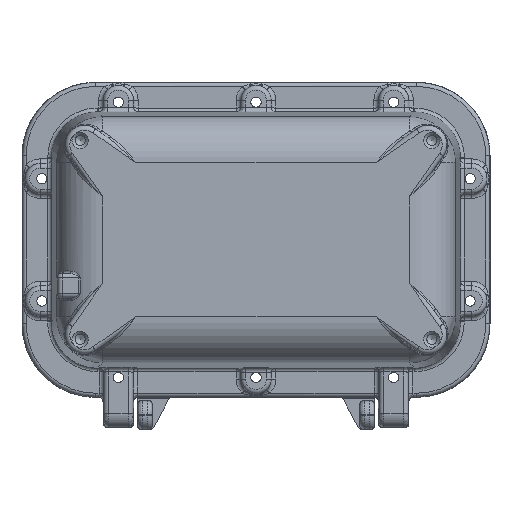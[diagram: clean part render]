
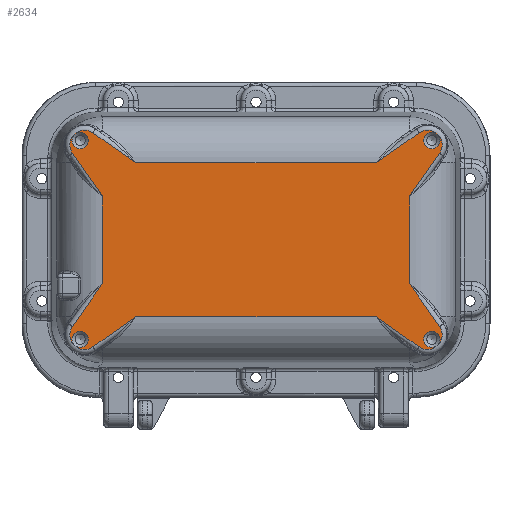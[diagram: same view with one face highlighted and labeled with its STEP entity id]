
A CAD part, front view. The second image highlights one B-rep face of the part: STEP entity #2634.
In plain terms, the highlighted planar face has unit normal (0, -1, 0).
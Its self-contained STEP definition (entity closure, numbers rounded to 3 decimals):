
#2634=ADVANCED_FACE('',(#24785,#24787,#24789,#24791,#24793),#24795,.T.);
#24785=FACE_BOUND('',#24786,.T.);
#24786=EDGE_LOOP('',(#51110,#51111,#51112,#51113,#51114,#51115,#51116,#51117,#51118,
#51119,#51120,#51121,#51122,#51123,#51124,#51125));
#24787=FACE_BOUND('',#24788,.T.);
#24788=EDGE_LOOP('',(#51126));
#24789=FACE_BOUND('',#24790,.T.);
#24790=EDGE_LOOP('',(#51127));
#24791=FACE_BOUND('',#24792,.T.);
#24792=EDGE_LOOP('',(#51128));
#24793=FACE_BOUND('',#24794,.T.);
#24794=EDGE_LOOP('',(#51129));
#24795=PLANE('',#24796);
#24796=AXIS2_PLACEMENT_3D('',#24797,#24798,#24799);
#24797=CARTESIAN_POINT('',(0.,-168.,0.));
#24798=DIRECTION('',(0.,-1.,0.));
#24799=DIRECTION('',(1.,0.,0.));
#51110=ORIENTED_EDGE('',*,*,#58867,.T.);
#51111=ORIENTED_EDGE('',*,*,#58868,.T.);
#51112=ORIENTED_EDGE('',*,*,#58869,.T.);
#51113=ORIENTED_EDGE('',*,*,#58870,.T.);
#51114=ORIENTED_EDGE('',*,*,#58871,.T.);
#51115=ORIENTED_EDGE('',*,*,#58872,.T.);
#51116=ORIENTED_EDGE('',*,*,#58873,.T.);
#51117=ORIENTED_EDGE('',*,*,#58874,.T.);
#51118=ORIENTED_EDGE('',*,*,#58875,.T.);
#51119=ORIENTED_EDGE('',*,*,#58876,.T.);
#51120=ORIENTED_EDGE('',*,*,#58877,.T.);
#51121=ORIENTED_EDGE('',*,*,#58878,.T.);
#51122=ORIENTED_EDGE('',*,*,#58879,.T.);
#51123=ORIENTED_EDGE('',*,*,#58880,.T.);
#51124=ORIENTED_EDGE('',*,*,#58881,.T.);
#51125=ORIENTED_EDGE('',*,*,#58505,.T.);
#51126=ORIENTED_EDGE('',*,*,#58882,.T.);
#51127=ORIENTED_EDGE('',*,*,#58883,.T.);
#51128=ORIENTED_EDGE('',*,*,#58884,.T.);
#51129=ORIENTED_EDGE('',*,*,#58885,.T.);
#58505=EDGE_CURVE('',#62262,#62259,#62263,.T.);
#58867=EDGE_CURVE('',#62259,#62866,#62867,.T.);
#58868=EDGE_CURVE('',#62866,#62868,#62869,.T.);
#58869=EDGE_CURVE('',#62868,#62870,#62871,.T.);
#58870=EDGE_CURVE('',#62870,#62872,#62873,.T.);
#58871=EDGE_CURVE('',#62872,#62874,#62875,.T.);
#58872=EDGE_CURVE('',#62874,#62876,#62877,.T.);
#58873=EDGE_CURVE('',#62876,#62878,#62879,.T.);
#58874=EDGE_CURVE('',#62878,#62880,#62881,.T.);
#58875=EDGE_CURVE('',#62880,#62882,#62883,.T.);
#58876=EDGE_CURVE('',#62882,#62884,#62885,.T.);
#58877=EDGE_CURVE('',#62884,#62886,#62887,.T.);
#58878=EDGE_CURVE('',#62886,#62888,#62889,.T.);
#58879=EDGE_CURVE('',#62888,#62890,#62891,.T.);
#58880=EDGE_CURVE('',#62890,#62892,#62893,.T.);
#58881=EDGE_CURVE('',#62892,#62262,#62894,.T.);
#58882=EDGE_CURVE('',#62895,#62895,#62896,.F.);
#58883=EDGE_CURVE('',#62897,#62897,#62898,.F.);
#58884=EDGE_CURVE('',#62899,#62899,#62900,.F.);
#58885=EDGE_CURVE('',#62901,#62901,#62902,.F.);
#62259=VERTEX_POINT('',#75119);
#62262=VERTEX_POINT('',#75153);
#62263=LINE('',#75154,#75155);
#62866=VERTEX_POINT('',#83551);
#62867=LINE('',#83552,#83553);
#62868=VERTEX_POINT('',#83555);
#62869=CIRCLE('',#83556,9.578);
#62870=VERTEX_POINT('',#83560);
#62871=LINE('',#83561,#83562);
#62872=VERTEX_POINT('',#83564);
#62873=LINE('',#83565,#83566);
#62874=VERTEX_POINT('',#83568);
#62875=LINE('',#83569,#83570);
#62876=VERTEX_POINT('',#83572);
#62877=CIRCLE('',#83573,9.578);
#62878=VERTEX_POINT('',#83577);
#62879=LINE('',#83578,#83579);
#62880=VERTEX_POINT('',#83581);
#62881=LINE('',#83582,#83583);
#62882=VERTEX_POINT('',#83585);
#62883=LINE('',#83586,#83587);
#62884=VERTEX_POINT('',#83589);
#62885=CIRCLE('',#83590,9.578);
#62886=VERTEX_POINT('',#83594);
#62887=LINE('',#83595,#83596);
#62888=VERTEX_POINT('',#83598);
#62889=LINE('',#83599,#83600);
#62890=VERTEX_POINT('',#83602);
#62891=LINE('',#83603,#83604);
#62892=VERTEX_POINT('',#83606);
#62893=CIRCLE('',#83607,9.578);
#62894=LINE('',#83611,#83612);
#62895=VERTEX_POINT('',#83614);
#62896=CIRCLE('',#83615,5.323);
#62897=VERTEX_POINT('',#83619);
#62898=CIRCLE('',#83620,5.323);
#62899=VERTEX_POINT('',#83624);
#62900=CIRCLE('',#83625,5.323);
#62901=VERTEX_POINT('',#83629);
#62902=CIRCLE('',#83630,5.323);
#75119=CARTESIAN_POINT('',(78.714,-168.,-50.436));
#75153=CARTESIAN_POINT('',(-78.714,-168.,-50.436));
#75154=CARTESIAN_POINT('',(-78.714,-168.,-50.436));
#75155=VECTOR('',#75156,1.);
#75156=DIRECTION('',(1.,0.,0.));
#83551=CARTESIAN_POINT('',(106.678,-168.,-70.017));
#83552=CARTESIAN_POINT('',(78.714,-168.,-50.436));
#83553=VECTOR('',#83554,1.);
#83554=DIRECTION('',(0.819,0.,-0.574));
#83555=CARTESIAN_POINT('',(120.017,-168.,-56.678));
#83556=AXIS2_PLACEMENT_3D('',#83557,#83558,#83559);
#83557=CARTESIAN_POINT('',(112.172,-168.,-62.172));
#83558=DIRECTION('',(0.,-1.,0.));
#83559=DIRECTION('',(-0.574,0.,-0.819));
#83560=CARTESIAN_POINT('',(100.436,-168.,-28.714));
#83561=CARTESIAN_POINT('',(120.017,-168.,-56.678));
#83562=VECTOR('',#83563,1.);
#83563=DIRECTION('',(-0.574,0.,0.819));
#83564=CARTESIAN_POINT('',(100.436,-168.,28.714));
#83565=CARTESIAN_POINT('',(100.436,-168.,-28.714));
#83566=VECTOR('',#83567,1.);
#83567=DIRECTION('',(0.,0.,1.));
#83568=CARTESIAN_POINT('',(120.017,-168.,56.678));
#83569=CARTESIAN_POINT('',(100.436,-168.,28.714));
#83570=VECTOR('',#83571,1.);
#83571=DIRECTION('',(0.574,0.,0.819));
#83572=CARTESIAN_POINT('',(106.678,-168.,70.017));
#83573=AXIS2_PLACEMENT_3D('',#83574,#83575,#83576);
#83574=CARTESIAN_POINT('',(112.172,-168.,62.172));
#83575=DIRECTION('',(0.,-1.,0.));
#83576=DIRECTION('',(0.819,0.,-0.574));
#83577=CARTESIAN_POINT('',(78.714,-168.,50.436));
#83578=CARTESIAN_POINT('',(106.678,-168.,70.017));
#83579=VECTOR('',#83580,1.);
#83580=DIRECTION('',(-0.819,0.,-0.574));
#83581=CARTESIAN_POINT('',(-78.714,-168.,50.436));
#83582=CARTESIAN_POINT('',(78.714,-168.,50.436));
#83583=VECTOR('',#83584,1.);
#83584=DIRECTION('',(-1.,0.,0.));
#83585=CARTESIAN_POINT('',(-106.678,-168.,70.017));
#83586=CARTESIAN_POINT('',(-78.714,-168.,50.436));
#83587=VECTOR('',#83588,1.);
#83588=DIRECTION('',(-0.819,0.,0.574));
#83589=CARTESIAN_POINT('',(-120.017,-168.,56.678));
#83590=AXIS2_PLACEMENT_3D('',#83591,#83592,#83593);
#83591=CARTESIAN_POINT('',(-112.172,-168.,62.172));
#83592=DIRECTION('',(0.,-1.,0.));
#83593=DIRECTION('',(0.574,0.,0.819));
#83594=CARTESIAN_POINT('',(-100.436,-168.,28.714));
#83595=CARTESIAN_POINT('',(-120.017,-168.,56.678));
#83596=VECTOR('',#83597,1.);
#83597=DIRECTION('',(0.574,0.,-0.819));
#83598=CARTESIAN_POINT('',(-100.436,-168.,-28.714));
#83599=CARTESIAN_POINT('',(-100.436,-168.,28.714));
#83600=VECTOR('',#83601,1.);
#83601=DIRECTION('',(0.,0.,-1.));
#83602=CARTESIAN_POINT('',(-120.017,-168.,-56.678));
#83603=CARTESIAN_POINT('',(-100.436,-168.,-28.714));
#83604=VECTOR('',#83605,1.);
#83605=DIRECTION('',(-0.574,0.,-0.819));
#83606=CARTESIAN_POINT('',(-106.678,-168.,-70.017));
#83607=AXIS2_PLACEMENT_3D('',#83608,#83609,#83610);
#83608=CARTESIAN_POINT('',(-112.172,-168.,-62.172));
#83609=DIRECTION('',(0.,-1.,0.));
#83610=DIRECTION('',(-0.819,0.,0.574));
#83611=CARTESIAN_POINT('',(-106.678,-168.,-70.017));
#83612=VECTOR('',#83613,1.);
#83613=DIRECTION('',(0.819,0.,0.574));
#83614=CARTESIAN_POINT('',(-109.677,-168.,-65.));
#83615=AXIS2_PLACEMENT_3D('',#83616,#83617,#83618);
#83616=CARTESIAN_POINT('',(-115.,-168.,-65.));
#83617=DIRECTION('',(0.,-1.,0.));
#83618=DIRECTION('',(1.,0.,0.));
#83619=CARTESIAN_POINT('',(120.323,-168.,65.));
#83620=AXIS2_PLACEMENT_3D('',#83621,#83622,#83623);
#83621=CARTESIAN_POINT('',(115.,-168.,65.));
#83622=DIRECTION('',(0.,-1.,0.));
#83623=DIRECTION('',(1.,0.,0.));
#83624=CARTESIAN_POINT('',(120.323,-168.,-65.));
#83625=AXIS2_PLACEMENT_3D('',#83626,#83627,#83628);
#83626=CARTESIAN_POINT('',(115.,-168.,-65.));
#83627=DIRECTION('',(0.,-1.,0.));
#83628=DIRECTION('',(1.,0.,0.));
#83629=CARTESIAN_POINT('',(-109.677,-168.,65.));
#83630=AXIS2_PLACEMENT_3D('',#83631,#83632,#83633);
#83631=CARTESIAN_POINT('',(-115.,-168.,65.));
#83632=DIRECTION('',(0.,-1.,0.));
#83633=DIRECTION('',(1.,0.,0.));
